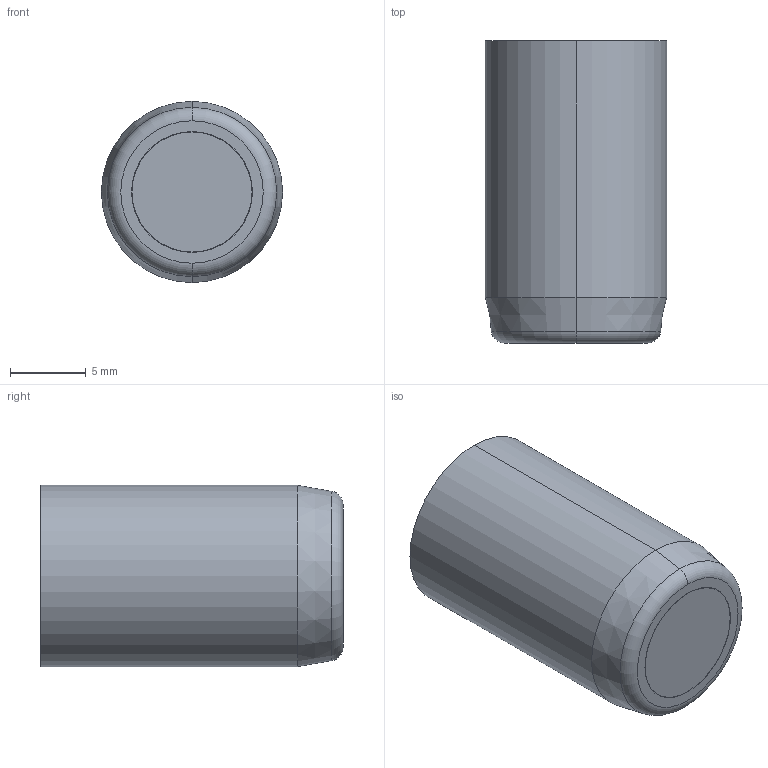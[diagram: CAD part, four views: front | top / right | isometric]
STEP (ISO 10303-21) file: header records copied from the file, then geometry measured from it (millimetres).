
FILE_DESCRIPTION (( 'STEP AP214' ), '1' );
FILE_NAME ('FA 126712-20.STEP', '2013-10-01T10:02:21', ( '' ), ( '' ), 'SwSTEP 2.0', 'SolidWorks 2011', '' );
FILE_SCHEMA (( 'AUTOMOTIVE_DESIGN' ));
Length unit declared in the file: millimetre
Products named in the file (6): FA 126700-2 comprimido; 9FA 126712; FA 126700-3; FA 126712-20; FA 126700-1; IA 571720
Assembly tree (5 placements, depth 2):
  FA 126712-20
    IA 571720
    FA 126700-2 comprimido
    FA 126700-3
    FA 126700-1
    9FA 126712
Bounding box: 12 x 20 x 12 mm (x, y, z)
Volume: 2015.7 mm3; surface area: 2185.8 mm2
Topology: 5 solids, 5 shells, 331 faces, 836 edges, 544 vertices
Faces by surface type: plane 151, cylinder 140, cone 24, torus 12, sphere 2, bspline 2
Entity records: 11580 total; most frequent: CARTESIAN_POINT 3087, DIRECTION 1804, ORIENTED_EDGE 1668, EDGE_CURVE 834, AXIS2_PLACEMENT_3D 669, VERTEX_POINT 544, LINE 466, VECTOR 466
